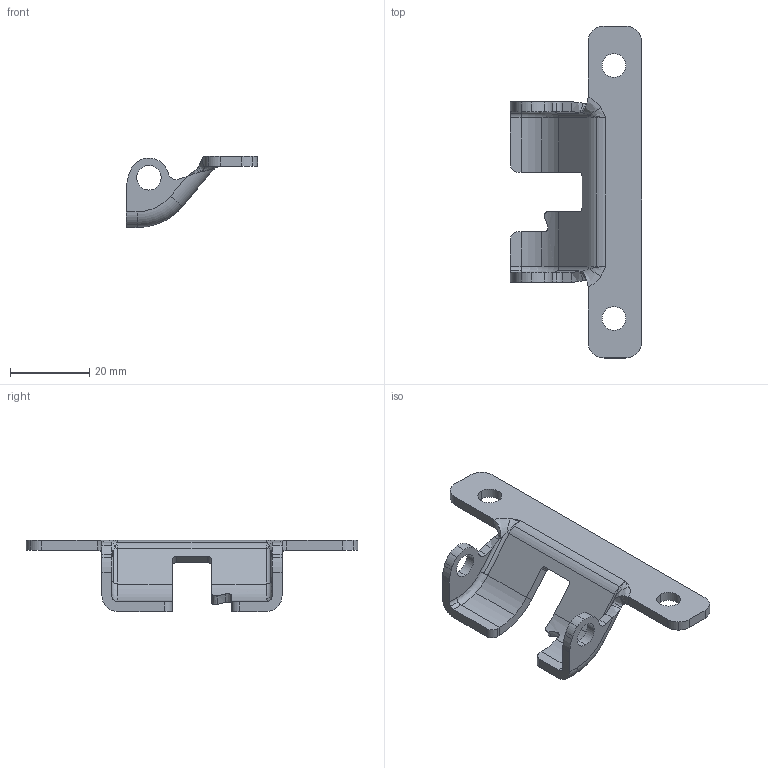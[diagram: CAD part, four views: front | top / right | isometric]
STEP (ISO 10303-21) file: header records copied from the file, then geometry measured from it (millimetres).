
FILE_DESCRIPTION(('CATIA V5 STEP Exchange'),'2;1');
FILE_NAME('D:\杨逍（新）\05-张磊\2022.11.10-转盘图纸-张磊\2022.11.18-单件图纸\SHT0015132-气动转盘解锁安装钣金\SHT0015132.stp','2022-11-23T00:50:04+00:00',('none'),('none'),'CATIA Version 5 Release 20 GA (IN-10)','CATIA V5 STEP AP214','none');
FILE_SCHEMA(('AUTOMOTIVE_DESIGN { 1 0 10303 214 1 1 1 1 }'));
Length unit declared in the file: millimetre
Products named in the file (1): Part7
Bounding box: 33.18 x 84 x 18 mm (x, y, z)
Volume: 5410.3 mm3; surface area: 5285.2 mm2
Topology: 1 solids, 1 shells, 119 faces, 315 edges, 194 vertices
Faces by surface type: cylinder 59, plane 33, bspline 19, torus 8
Entity records: 4403 total; most frequent: CARTESIAN_POINT 1688, ORIENTED_EDGE 622, DIRECTION 428, EDGE_CURVE 311, AXIS2_PLACEMENT_3D 203, VERTEX_POINT 194, VECTOR 132, LINE 132
